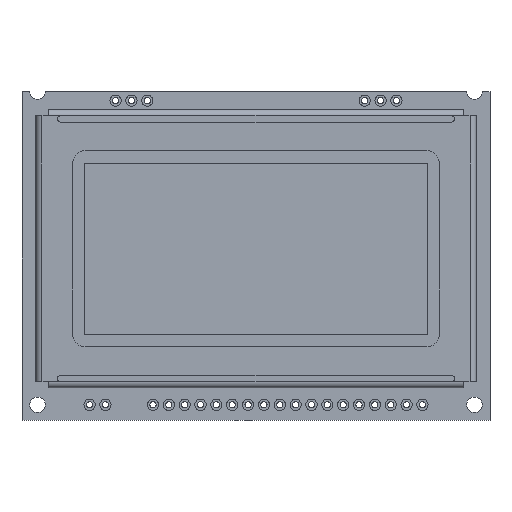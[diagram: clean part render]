
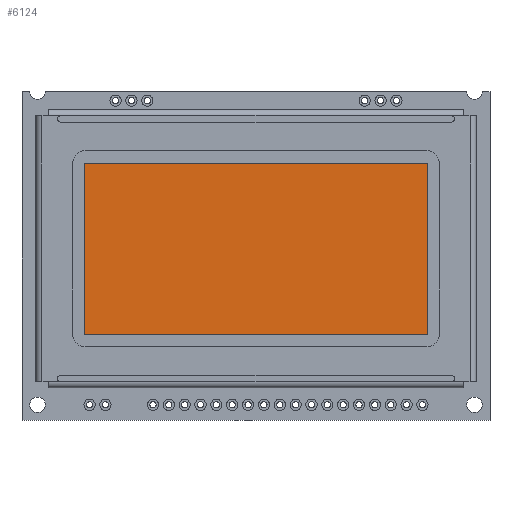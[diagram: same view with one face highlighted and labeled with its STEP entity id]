
A CAD part, top view. The second image highlights one B-rep face of the part: STEP entity #6124.
In plain terms, the highlighted planar face has unit normal (0, 0, 1).
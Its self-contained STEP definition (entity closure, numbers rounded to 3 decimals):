
#190 = EDGE_CURVE ( 'NONE', #9355, #10040, #6054, .T. ) ;
#261 = ORIENTED_EDGE ( 'NONE', *, *, #3861, .F. ) ;
#2177 = DIRECTION ( 'NONE',  ( 0., 0., 1. ) ) ;
#2619 = EDGE_CURVE ( 'NONE', #21934, #21866, #17925, .T. ) ;
#2780 = CARTESIAN_POINT ( 'NONE',  ( -27.4, -12.59, 5.4 ) ) ;
#2953 = VECTOR ( 'NONE', #21735, 1000. ) ;
#3861 = EDGE_CURVE ( 'NONE', #10040, #21934, #14398, .T. ) ;
#6054 = LINE ( 'NONE', #19022, #14213 ) ;
#6124 = ADVANCED_FACE ( 'NONE', ( #15583 ), #17575, .T. ) ;
#6387 = AXIS2_PLACEMENT_3D ( 'NONE', #23274, #2177, #9863 ) ;
#8409 = ORIENTED_EDGE ( 'NONE', *, *, #15771, .F. ) ;
#8416 = CARTESIAN_POINT ( 'NONE',  ( 27.5, 14.89, 5.4 ) ) ;
#8517 = LINE ( 'NONE', #13783, #2953 ) ;
#9142 = CARTESIAN_POINT ( 'NONE',  ( -27.5, 14.89, 5.4 ) ) ;
#9355 = VERTEX_POINT ( 'NONE', #9142 ) ;
#9847 = VECTOR ( 'NONE', #12348, 1000. ) ;
#9863 = DIRECTION ( 'NONE',  ( 1., 0., 0. ) ) ;
#10040 = VERTEX_POINT ( 'NONE', #8416 ) ;
#10635 = EDGE_LOOP ( 'NONE', ( #8409, #18594, #261, #13287 ) ) ;
#10695 = VECTOR ( 'NONE', #21965, 1000. ) ;
#12348 = DIRECTION ( 'NONE',  ( -1., 0., 0. ) ) ;
#13287 = ORIENTED_EDGE ( 'NONE', *, *, #190, .F. ) ;
#13568 = DIRECTION ( 'NONE',  ( 1., 0., 0. ) ) ;
#13783 = CARTESIAN_POINT ( 'NONE',  ( -27.5, -12.55, 5.4 ) ) ;
#14213 = VECTOR ( 'NONE', #13568, 1000. ) ;
#14398 = LINE ( 'NONE', #22085, #10695 ) ;
#15583 = FACE_OUTER_BOUND ( 'NONE', #10635, .T. ) ;
#15771 = EDGE_CURVE ( 'NONE', #21866, #9355, #8517, .T. ) ;
#16001 = CARTESIAN_POINT ( 'NONE',  ( 27.5, -12.59, 5.4 ) ) ;
#17575 = PLANE ( 'NONE',  #6387 ) ;
#17925 = LINE ( 'NONE', #2780, #9847 ) ;
#18594 = ORIENTED_EDGE ( 'NONE', *, *, #2619, .F. ) ;
#19022 = CARTESIAN_POINT ( 'NONE',  ( -27.4, 14.89, 5.4 ) ) ;
#21735 = DIRECTION ( 'NONE',  ( 0., 1., 0. ) ) ;
#21866 = VERTEX_POINT ( 'NONE', #23193 ) ;
#21934 = VERTEX_POINT ( 'NONE', #16001 ) ;
#21965 = DIRECTION ( 'NONE',  ( 0., -1., 0. ) ) ;
#22085 = CARTESIAN_POINT ( 'NONE',  ( 27.5, -12.55, 5.4 ) ) ;
#23193 = CARTESIAN_POINT ( 'NONE',  ( -27.5, -12.59, 5.4 ) ) ;
#23274 = CARTESIAN_POINT ( 'NONE',  ( -27.4, -12.55, 5.4 ) ) ;
